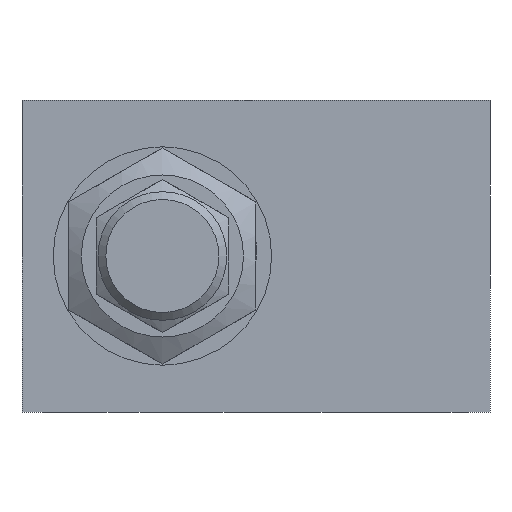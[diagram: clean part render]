
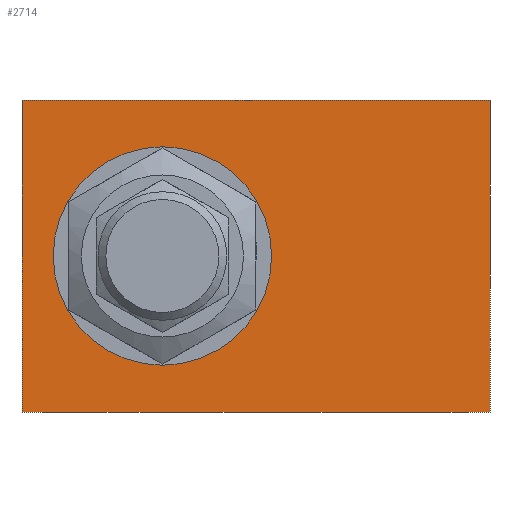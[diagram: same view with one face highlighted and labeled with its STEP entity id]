
A CAD part, left-side view. The second image highlights one B-rep face of the part: STEP entity #2714.
In plain terms, the highlighted planar face has unit normal (-1, 0, 0).
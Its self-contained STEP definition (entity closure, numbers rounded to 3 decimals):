
#166=FACE_BOUND('',#516,.T.);
#190=PLANE('',#2950);
#341=FACE_OUTER_BOUND('',#515,.T.);
#515=EDGE_LOOP('',(#1844,#1845,#1846,#1847));
#516=EDGE_LOOP('',(#1848));
#731=LINE('',#4100,#835);
#742=LINE('',#4141,#846);
#743=LINE('',#4146,#847);
#744=LINE('',#4147,#848);
#835=VECTOR('',#3263,10.);
#846=VECTOR('',#3306,10.);
#847=VECTOR('',#3311,10.);
#848=VECTOR('',#3312,10.);
#961=CIRCLE('',#2951,14.);
#1097=VERTEX_POINT('',#4096);
#1099=VERTEX_POINT('',#4099);
#1113=VERTEX_POINT('',#4139);
#1115=VERTEX_POINT('',#4145);
#1116=VERTEX_POINT('',#4148);
#1375=EDGE_CURVE('',#1099,#1097,#731,.T.);
#1396=EDGE_CURVE('',#1097,#1113,#742,.T.);
#1398=EDGE_CURVE('',#1113,#1115,#743,.T.);
#1399=EDGE_CURVE('',#1099,#1115,#744,.T.);
#1400=EDGE_CURVE('',#1116,#1116,#961,.T.);
#1844=ORIENTED_EDGE('',*,*,#1398,.T.);
#1845=ORIENTED_EDGE('',*,*,#1399,.F.);
#1846=ORIENTED_EDGE('',*,*,#1375,.T.);
#1847=ORIENTED_EDGE('',*,*,#1396,.T.);
#1848=ORIENTED_EDGE('',*,*,#1400,.T.);
#2714=ADVANCED_FACE('',(#341,#166),#190,.T.);
#2950=AXIS2_PLACEMENT_3D('',#4144,#3309,#3310);
#2951=AXIS2_PLACEMENT_3D('',#4149,#3313,#3314);
#3263=DIRECTION('',(0.,-1.,0.));
#3306=DIRECTION('',(0.,0.,1.));
#3309=DIRECTION('center_axis',(-1.,0.,0.));
#3310=DIRECTION('ref_axis',(0.,0.,1.));
#3311=DIRECTION('',(0.,1.,0.));
#3312=DIRECTION('',(0.,0.,1.));
#3313=DIRECTION('center_axis',(1.,0.,0.));
#3314=DIRECTION('ref_axis',(0.,0.,1.));
#4096=CARTESIAN_POINT('',(0.,0.,0.));
#4099=CARTESIAN_POINT('',(0.,60.,0.));
#4100=CARTESIAN_POINT('',(0.,60.,0.));
#4139=CARTESIAN_POINT('',(0.,0.,40.));
#4141=CARTESIAN_POINT('',(0.,0.,0.));
#4144=CARTESIAN_POINT('Origin',(0.,0.,0.));
#4145=CARTESIAN_POINT('',(0.,60.,40.));
#4146=CARTESIAN_POINT('',(0.,60.,40.));
#4147=CARTESIAN_POINT('',(0.,60.,0.));
#4148=CARTESIAN_POINT('',(0.,42.,6.));
#4149=CARTESIAN_POINT('Origin',(0.,42.,20.));
